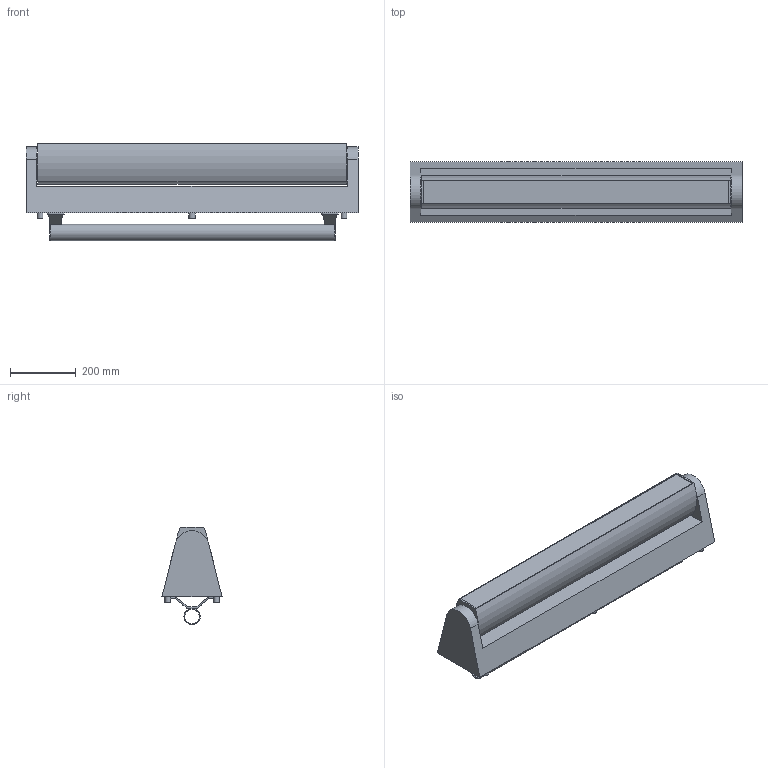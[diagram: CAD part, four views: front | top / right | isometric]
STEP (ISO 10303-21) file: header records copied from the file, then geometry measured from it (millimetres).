
FILE_DESCRIPTION( ( 'Unknown' ), '1' );
FILE_NAME( 'K:/ROBE-LED/36 Robin MovingLine/01 CycFX 8/05 2D_3D symbols/3D_CycFX_Bar_00.stp', 'Unknown', ( '*' ), ( '*' ), 'PSStep 15.0.49', 'SolidEdge', ' ' );
FILE_SCHEMA( ( 'AUTOMOTIVE_DESIGN { 1 0 10303 214 1 1 1 1 }' ) );
Length unit declared in the file: millimetre
Products named in the file (7): 11030604 MountingBar svařenec; 19030285 Trubka 50x L868; 11014555 Závěs Al; MBar; Assem1; Base CycFX; Head CycFx
Assembly tree (7 placements, depth 4):
  Assem1
    Base CycFX
    Head CycFx
    MBar
      11030604 MountingBar svařenec
        19030285 Trubka 50x L868
        11014555 Závěs Al  x2
Bounding box: 1010 x 182.54 x 297.01 mm (x, y, z)
Volume: 26292016 mm3; surface area: 1411702.9 mm2
Topology: 5 solids, 5 shells, 154 faces, 352 edges, 227 vertices
Faces by surface type: plane 79, cylinder 63, bspline 8, cone 4
Full cylindrical faces by diameter (mm): 11 x4, 13 x9, 17.158 x6, 18.5 x1, 26 x2, 44 x1, 48 x1, 50 x1
Entity records: 3880 total; most frequent: CARTESIAN_POINT 552, DIRECTION 514, ORIENTED_EDGE 404, AXIS2_PLACEMENT_3D 204, EDGE_CURVE 202, EDGE_LOOP 164, VERTEX_POINT 146, FACE_OUTER_BOUND 133
